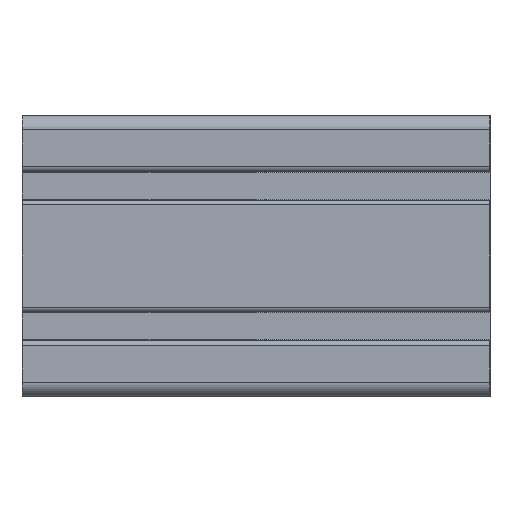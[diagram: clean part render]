
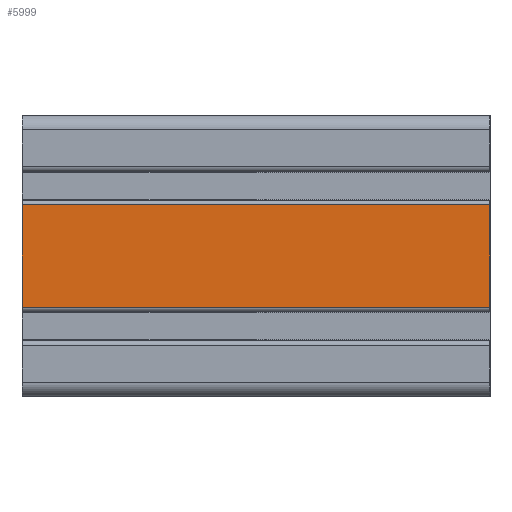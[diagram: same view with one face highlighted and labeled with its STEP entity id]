
A CAD part, left-side view. The second image highlights one B-rep face of the part: STEP entity #5999.
In plain terms, the highlighted planar face has unit normal (-1, 0, 0).
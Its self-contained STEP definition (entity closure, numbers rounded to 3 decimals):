
#1190 = LINE ( 'NONE', #4308, #12646 ) ;
#1685 = AXIS2_PLACEMENT_3D ( 'NONE', #1957, #3540, #7705 ) ;
#1957 = CARTESIAN_POINT ( 'NONE',  ( -60., 50., -10.9 ) ) ;
#2227 = VERTEX_POINT ( 'NONE', #9774 ) ;
#3540 = DIRECTION ( 'NONE',  ( 1., 0., 0. ) ) ;
#4156 = EDGE_LOOP ( 'NONE', ( #17016, #6295, #7667, #8582 ) ) ;
#4308 = CARTESIAN_POINT ( 'NONE',  ( -60., 50., -10.9 ) ) ;
#4415 = LINE ( 'NONE', #8566, #4509 ) ;
#4509 = VECTOR ( 'NONE', #10076, 1000. ) ;
#5154 = VERTEX_POINT ( 'NONE', #10938 ) ;
#5866 = DIRECTION ( 'NONE',  ( 0., 0., 1. ) ) ;
#5999 = ADVANCED_FACE ( 'NONE', ( #9388 ), #17931, .F. ) ;
#6292 = LINE ( 'NONE', #7620, #12650 ) ;
#6295 = ORIENTED_EDGE ( 'NONE', *, *, #10552, .F. ) ;
#7620 = CARTESIAN_POINT ( 'NONE',  ( -60., 50., 10.9 ) ) ;
#7667 = ORIENTED_EDGE ( 'NONE', *, *, #12112, .F. ) ;
#7705 = DIRECTION ( 'NONE',  ( 0., 0., -1. ) ) ;
#8566 = CARTESIAN_POINT ( 'NONE',  ( -60., 50., -10.9 ) ) ;
#8582 = ORIENTED_EDGE ( 'NONE', *, *, #14934, .T. ) ;
#9388 = FACE_OUTER_BOUND ( 'NONE', #4156, .T. ) ;
#9774 = CARTESIAN_POINT ( 'NONE',  ( -60., -50., 10.9 ) ) ;
#9804 = VERTEX_POINT ( 'NONE', #16267 ) ;
#10076 = DIRECTION ( 'NONE',  ( 0., -1., 0. ) ) ;
#10450 = VERTEX_POINT ( 'NONE', #17289 ) ;
#10552 = EDGE_CURVE ( 'NONE', #10450, #2227, #6292, .T. ) ;
#10938 = CARTESIAN_POINT ( 'NONE',  ( -60., 50., -10.9 ) ) ;
#12112 = EDGE_CURVE ( 'NONE', #5154, #10450, #1190, .T. ) ;
#12410 = VECTOR ( 'NONE', #5866, 1000. ) ;
#12646 = VECTOR ( 'NONE', #15542, 1000. ) ;
#12650 = VECTOR ( 'NONE', #17756, 1000. ) ;
#12913 = EDGE_CURVE ( 'NONE', #9804, #2227, #13024, .T. ) ;
#13024 = LINE ( 'NONE', #15980, #12410 ) ;
#14934 = EDGE_CURVE ( 'NONE', #5154, #9804, #4415, .T. ) ;
#15542 = DIRECTION ( 'NONE',  ( 0., 0., 1. ) ) ;
#15980 = CARTESIAN_POINT ( 'NONE',  ( -60., -50., -10.9 ) ) ;
#16267 = CARTESIAN_POINT ( 'NONE',  ( -60., -50., -10.9 ) ) ;
#17016 = ORIENTED_EDGE ( 'NONE', *, *, #12913, .T. ) ;
#17289 = CARTESIAN_POINT ( 'NONE',  ( -60., 50., 10.9 ) ) ;
#17756 = DIRECTION ( 'NONE',  ( 0., -1., 0. ) ) ;
#17931 = PLANE ( 'NONE',  #1685 ) ;
